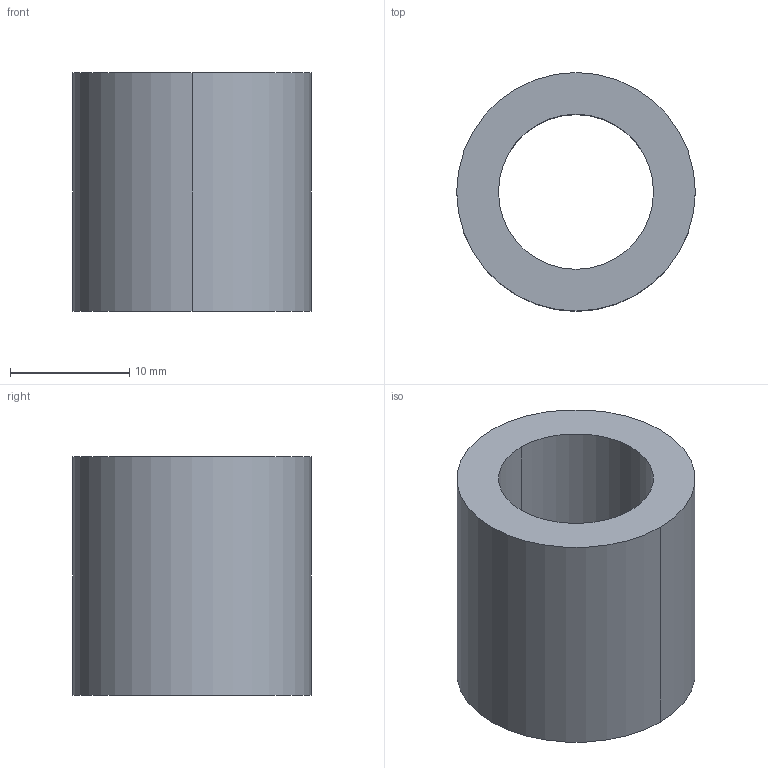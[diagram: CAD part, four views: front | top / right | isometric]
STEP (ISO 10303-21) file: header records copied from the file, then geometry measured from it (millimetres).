
FILE_DESCRIPTION(/* description */ (''),/* implementation_level */ '2;1');
FILE_NAME(/* name */ '3d_tgbm13-20_00319_r00.stp',/* time_stamp */ '2011-01-10T14:09:03+09:00',/* author */ ('MISUMI'),/* organization */ (''),/* preprocessor_version */ 'ST-DEVELOPER v11',/* originating_system */ 'UGS - NX 5.0',/* authorisation */ '');
FILE_SCHEMA (('CONFIG_CONTROL_DESIGN'));
Length unit declared in the file: millimetre
Products named in the file (1): 3d_tgbm13-20_00319_r00
Bounding box: 20 x 20 x 20 mm (x, y, z)
Volume: 3628.5 mm3; surface area: 2436.3 mm2
Topology: 1 solids, 1 shells, 6 faces, 12 edges, 8 vertices
Faces by surface type: cylinder 4, plane 2
Entity records: 254 total; most frequent: DIRECTION 34, CARTESIAN_POINT 27, ORIENTED_EDGE 24, AXIS2_PLACEMENT_3D 15, EDGE_CURVE 12, EDGE_LOOP 8, CIRCLE 8, VERTEX_POINT 8
